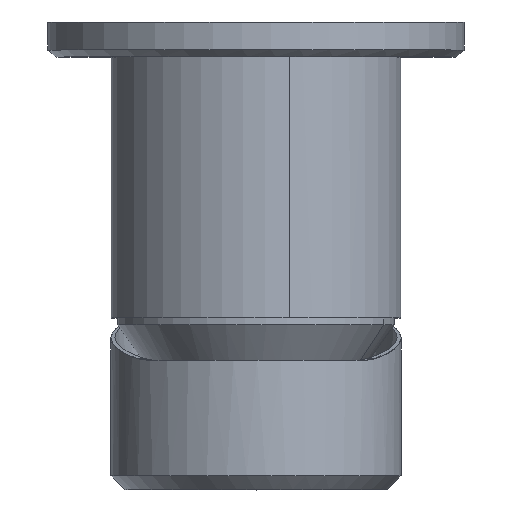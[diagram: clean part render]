
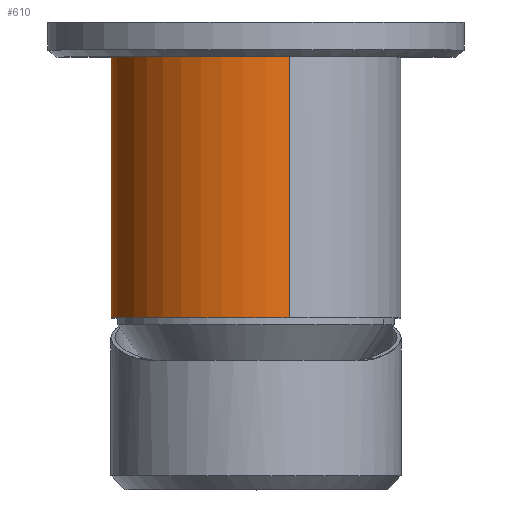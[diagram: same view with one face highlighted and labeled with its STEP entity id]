
A CAD part, top view. The second image highlights one B-rep face of the part: STEP entity #610.
In plain terms, the highlighted cylindrical face has radius 20.9 mm (diameter 41.8 mm), a partial arc.
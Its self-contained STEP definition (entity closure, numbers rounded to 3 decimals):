
#610=ADVANCED_FACE('',(#858),#3940,.T.);
#858=FACE_OUTER_BOUND('',#1108,.T.);
#1108=EDGE_LOOP('',(#1385,#1386,#1387,#1388));
#1385=ORIENTED_EDGE('',*,*,#2603,.F.);
#1386=ORIENTED_EDGE('',*,*,#2598,.F.);
#1387=ORIENTED_EDGE('',*,*,#2604,.T.);
#1388=ORIENTED_EDGE('',*,*,#2596,.F.);
#2596=EDGE_CURVE('',#3320,#3321,#3220,.T.);
#2598=EDGE_CURVE('',#3322,#3319,#3222,.T.);
#2603=EDGE_CURVE('',#3319,#3320,#3227,.T.);
#2604=EDGE_CURVE('',#3322,#3321,#3228,.T.);
#3220=(
BOUNDED_CURVE()
B_SPLINE_CURVE(1,(#4538,#4539),.UNSPECIFIED.,.F.,.F.)
B_SPLINE_CURVE_WITH_KNOTS((2,2),(4.192,45.992),.UNSPECIFIED.)
CURVE()
GEOMETRIC_REPRESENTATION_ITEM()
RATIONAL_B_SPLINE_CURVE((1.,1.))
REPRESENTATION_ITEM('')
);
#3222=(
BOUNDED_CURVE()
B_SPLINE_CURVE(1,(#4545,#4546),.UNSPECIFIED.,.F.,.F.)
B_SPLINE_CURVE_WITH_KNOTS((2,2),(-45.992,-4.192),.UNSPECIFIED.)
CURVE()
GEOMETRIC_REPRESENTATION_ITEM()
RATIONAL_B_SPLINE_CURVE((1.,1.))
REPRESENTATION_ITEM('')
);
#3227=(
BOUNDED_CURVE()
B_SPLINE_CURVE(2,(#4567,#4568,#4569,#4570,#4571),.UNSPECIFIED.,.F.,.F.)
B_SPLINE_CURVE_WITH_KNOTS((3,2,3),(-70.492,-37.662,
-4.833),.UNSPECIFIED.)
CURVE()
GEOMETRIC_REPRESENTATION_ITEM()
RATIONAL_B_SPLINE_CURVE((1.,0.707,1.,0.707,1.))
REPRESENTATION_ITEM('')
);
#3228=(
BOUNDED_CURVE()
B_SPLINE_CURVE(2,(#4572,#4573,#4574,#4575,#4576),.UNSPECIFIED.,.F.,.F.)
B_SPLINE_CURVE_WITH_KNOTS((3,2,3),(-70.492,-37.662,
-4.833),.UNSPECIFIED.)
CURVE()
GEOMETRIC_REPRESENTATION_ITEM()
RATIONAL_B_SPLINE_CURVE((1.,0.707,1.,0.707,1.))
REPRESENTATION_ITEM('')
);
#3319=VERTEX_POINT('',#4525);
#3320=VERTEX_POINT('',#4526);
#3321=VERTEX_POINT('',#4527);
#3322=VERTEX_POINT('',#4528);
#3940=CYLINDRICAL_SURFACE('',#4053,20.9);
#4053=AXIS2_PLACEMENT_3D('',#4524,#4288,$);
#4288=DIRECTION('',(0.,1.,0.));
#4524=CARTESIAN_POINT('',(0.,-21.7,0.));
#4525=CARTESIAN_POINT('',(4.79,-42.6,20.344));
#4526=CARTESIAN_POINT('',(-4.79,-42.6,-20.344));
#4527=CARTESIAN_POINT('',(-4.79,-0.8,-20.344));
#4528=CARTESIAN_POINT('',(4.79,-0.8,20.344));
#4538=CARTESIAN_POINT('',(-4.79,-42.6,-20.344));
#4539=CARTESIAN_POINT('',(-4.79,-0.8,-20.344));
#4545=CARTESIAN_POINT('',(4.79,-0.8,20.344));
#4546=CARTESIAN_POINT('',(4.79,-42.6,20.344));
#4567=CARTESIAN_POINT('',(4.79,-42.6,20.344));
#4568=CARTESIAN_POINT('',(-15.554,-42.6,25.134));
#4569=CARTESIAN_POINT('',(-20.344,-42.6,4.79));
#4570=CARTESIAN_POINT('',(-25.134,-42.6,-15.554));
#4571=CARTESIAN_POINT('',(-4.79,-42.6,-20.344));
#4572=CARTESIAN_POINT('',(4.79,-0.8,20.344));
#4573=CARTESIAN_POINT('',(-15.554,-0.8,25.134));
#4574=CARTESIAN_POINT('',(-20.344,-0.8,4.79));
#4575=CARTESIAN_POINT('',(-25.134,-0.8,-15.554));
#4576=CARTESIAN_POINT('',(-4.79,-0.8,-20.344));
